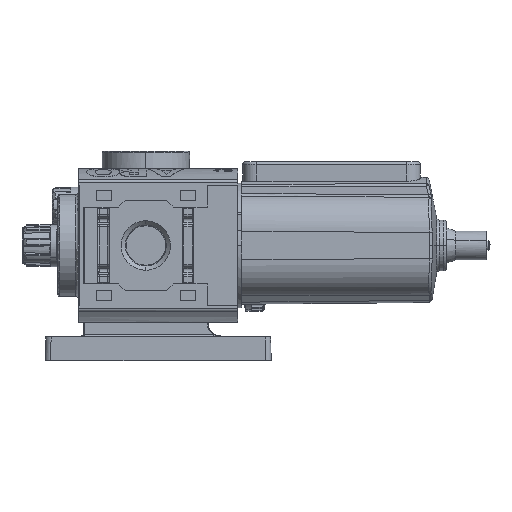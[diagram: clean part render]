
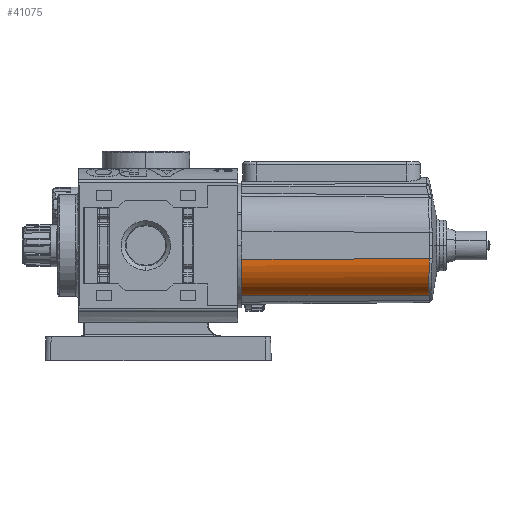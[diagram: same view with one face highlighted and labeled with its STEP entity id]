
A CAD part, left-side view. The second image highlights one B-rep face of the part: STEP entity #41075.
In plain terms, the highlighted cylindrical face has radius 14 mm (diameter 28 mm), a partial arc.
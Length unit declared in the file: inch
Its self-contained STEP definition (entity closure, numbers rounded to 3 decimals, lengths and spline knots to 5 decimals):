
#35356=(
BOUNDED_CURVE()
B_SPLINE_CURVE(3,(#177194,#177195,#177196,#177197,#177198,#177199,#177200,
#177201,#177202,#177203,#177204,#177205,#177206,#177207,#177208,#177209,
#177210,#177211,#177212,#177213,#177214,#177215,#177216,#177217,#177218,
#177219,#177220,#177221,#177222,#177223),.UNSPECIFIED.,.F.,.F.)
B_SPLINE_CURVE_WITH_KNOTS((4,2,2,2,2,2,2,2,2,2,2,2,2,2,4),(0.,0.125,0.1875,
0.25,0.375,0.4375,0.46875,0.5,0.625,0.6875,0.71875,0.73438,0.75,0.875,1.),
.UNSPECIFIED.)
CURVE()
GEOMETRIC_REPRESENTATION_ITEM()
RATIONAL_B_SPLINE_CURVE((1.,1.,1.,1.,1.,1.,1.,1.,1.,1.,1.,1.,1.,1.,1.,1.,
1.,1.,1.,1.,1.,1.,1.,1.,1.,1.,1.,1.,1.,1.))
REPRESENTATION_ITEM('')
);
#41075=ADVANCED_FACE('',(#47192),#44266,.T.);
#44266=CYLINDRICAL_SURFACE('',#121448,0.55118);
#47192=FACE_OUTER_BOUND('',#52256,.T.);
#52256=EDGE_LOOP('',(#72804,#72805,#72806,#72807));
#57595=B_SPLINE_CURVE_WITH_KNOTS('',3,(#177065,#177066,#177067,#177068,#177069,
#177070,#177071,#177072,#177073,#177074,#177075,#177076),.UNSPECIFIED.,.F.,
.F.,(4,2,2,2,2,4),(0.,0.5,0.5625,0.625,
0.75,1.),.UNSPECIFIED.);
#57603=B_SPLINE_CURVE_WITH_KNOTS('',3,(#177184,#177185,#177186,#177187),
.UNSPECIFIED.,.F.,.F.,(4,4),(0.,1.),.UNSPECIFIED.);
#57605=B_SPLINE_CURVE_WITH_KNOTS('',3,(#177225,#177226,#177227,#177228),
.UNSPECIFIED.,.F.,.F.,(4,4),(0.,1.),.UNSPECIFIED.);
#72804=ORIENTED_EDGE('',*,*,#99827,.F.);
#72805=ORIENTED_EDGE('',*,*,#99828,.F.);
#72806=ORIENTED_EDGE('',*,*,#99812,.T.);
#72807=ORIENTED_EDGE('',*,*,#99825,.F.);
#89729=VERTEX_POINT('',#177064);
#89730=VERTEX_POINT('',#177077);
#89738=VERTEX_POINT('',#177188);
#89739=VERTEX_POINT('',#177224);
#99812=EDGE_CURVE('',#89730,#89729,#57595,.T.);
#99825=EDGE_CURVE('',#89738,#89729,#57603,.T.);
#99827=EDGE_CURVE('',#89739,#89738,#35356,.T.);
#99828=EDGE_CURVE('',#89730,#89739,#57605,.T.);
#121448=AXIS2_PLACEMENT_3D('',#177229,#132275,#132276);
#132275=DIRECTION('',(-0.021,1.,-0.002));
#132276=DIRECTION('',(-1.,-0.021,0.));
#177064=CARTESIAN_POINT('',(-4.86377,-0.03937,-0.73793));
#177065=CARTESIAN_POINT('',(-5.23622,-0.03937,-0.21658));
#177066=CARTESIAN_POINT('',(-5.23622,-0.03937,-0.32804));
#177067=CARTESIAN_POINT('',(-5.20123,-0.03937,-0.44217));
#177068=CARTESIAN_POINT('',(-5.12509,-0.03937,-0.54876));
#177069=CARTESIAN_POINT('',(-5.11841,-0.03937,-0.55736));
#177070=CARTESIAN_POINT('',(-5.10183,-0.03937,-0.57744));
#177071=CARTESIAN_POINT('',(-5.09306,-0.03937,-0.58735));
#177072=CARTESIAN_POINT('',(-5.06525,-0.03938,-0.61649));
#177073=CARTESIAN_POINT('',(-5.04471,-0.03938,-0.63516));
#177074=CARTESIAN_POINT('',(-4.97709,-0.03938,-0.68744));
#177075=CARTESIAN_POINT('',(-4.92385,-0.03937,-0.71733));
#177076=CARTESIAN_POINT('',(-4.86377,-0.03937,-0.73793));
#177077=CARTESIAN_POINT('',(-5.23622,-0.03937,-0.21658));
#177184=CARTESIAN_POINT('',(-4.8075,-2.72585,-0.73244));
#177185=CARTESIAN_POINT('',(-4.82626,-1.83036,-0.73427));
#177186=CARTESIAN_POINT('',(-4.84502,-0.93486,-0.7361));
#177187=CARTESIAN_POINT('',(-4.86377,-0.03937,-0.73793));
#177188=CARTESIAN_POINT('',(-4.8075,-2.72585,-0.73244));
#177194=CARTESIAN_POINT('',(-5.17983,-2.73139,-0.21108));
#177195=CARTESIAN_POINT('',(-5.17986,-2.72986,-0.23978));
#177196=CARTESIAN_POINT('',(-5.17766,-2.72848,-0.26823));
#177197=CARTESIAN_POINT('',(-5.17107,-2.72661,-0.31055));
#177198=CARTESIAN_POINT('',(-5.16832,-2.72603,-0.32459));
#177199=CARTESIAN_POINT('',(-5.1617,-2.72494,-0.35254));
#177200=CARTESIAN_POINT('',(-5.15786,-2.72443,-0.3663));
#177201=CARTESIAN_POINT('',(-5.14482,-2.72304,-0.40692));
#177202=CARTESIAN_POINT('',(-5.1341,-2.72229,-0.43315));
#177203=CARTESIAN_POINT('',(-5.11499,-2.7214,-0.47122));
#177204=CARTESIAN_POINT('',(-5.10811,-2.72114,-0.4837));
#177205=CARTESIAN_POINT('',(-5.09702,-2.72083,-0.50208));
#177206=CARTESIAN_POINT('',(-5.09318,-2.72073,-0.50817));
#177207=CARTESIAN_POINT('',(-5.08529,-2.72056,-0.52015));
#177208=CARTESIAN_POINT('',(-5.08125,-2.72049,-0.52605));
#177209=CARTESIAN_POINT('',(-5.06049,-2.72019,-0.55505));
#177210=CARTESIAN_POINT('',(-5.04224,-2.72012,-0.57677));
#177211=CARTESIAN_POINT('',(-5.01245,-2.72028,-0.60714));
#177212=CARTESIAN_POINT('',(-5.00211,-2.72038,-0.61689));
#177213=CARTESIAN_POINT('',(-4.98599,-2.7206,-0.63096));
#177214=CARTESIAN_POINT('',(-4.98051,-2.72068,-0.63556));
#177215=CARTESIAN_POINT('',(-4.97213,-2.72082,-0.64231));
#177216=CARTESIAN_POINT('',(-4.96931,-2.72087,-0.64454));
#177217=CARTESIAN_POINT('',(-4.96364,-2.72098,-0.64894));
#177218=CARTESIAN_POINT('',(-4.96078,-2.72103,-0.65111));
#177219=CARTESIAN_POINT('',(-4.93494,-2.72155,-0.67033));
#177220=CARTESIAN_POINT('',(-4.9109,-2.72218,-0.68544));
#177221=CARTESIAN_POINT('',(-4.86077,-2.72377,-0.71184));
#177222=CARTESIAN_POINT('',(-4.83467,-2.72473,-0.72314));
#177223=CARTESIAN_POINT('',(-4.8075,-2.72585,-0.73244));
#177224=CARTESIAN_POINT('',(-5.17983,-2.73139,-0.21108));
#177225=CARTESIAN_POINT('',(-5.23622,-0.03937,-0.21658));
#177226=CARTESIAN_POINT('',(-5.21742,-0.93671,-0.21474));
#177227=CARTESIAN_POINT('',(-5.19863,-1.83405,-0.21291));
#177228=CARTESIAN_POINT('',(-5.17983,-2.73139,-0.21108));
#177229=CARTESIAN_POINT('',(4942.38959,-236170.9096,482.44883));
